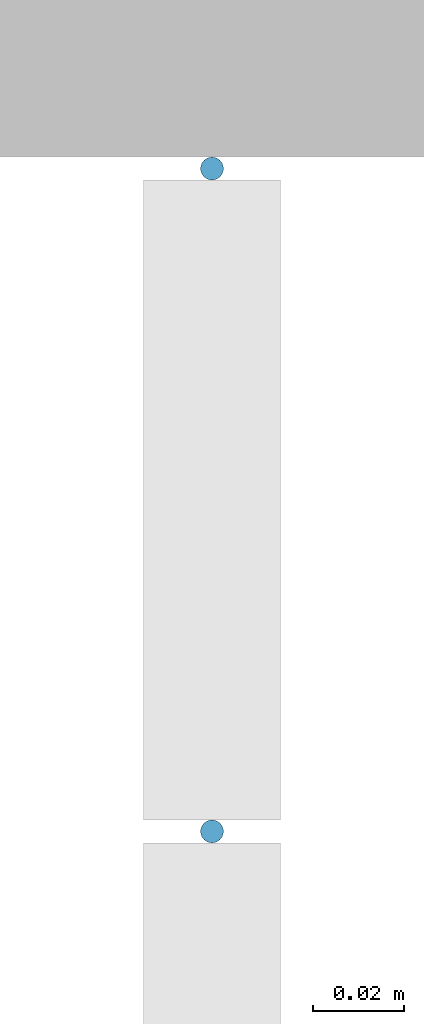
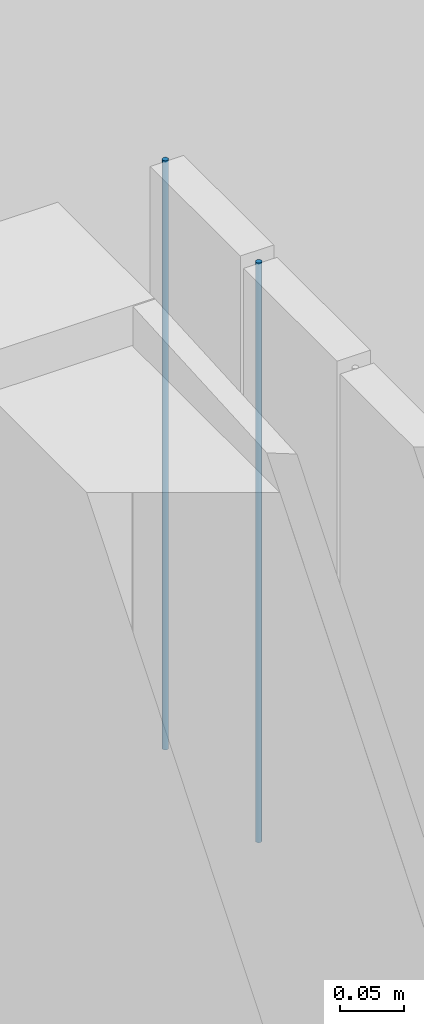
# One storey, part 62 of 81: 2 members, 1 element without a shape of its own.
"""IFC2X3 building model written with IfcOpenShell, lengths in metres."""

from ifc_helpers import new_model, entity, si_unit, converted_unit, derived_unit, direction, frame, frame_2d, origin, place, context, subcontext, project, spatial, circle, extrude, source, transform, mapped, material, type_object, type_shapes, element, aggregate, save


model = new_model("IFC2X3")

# Units and contexts
model_context = context("Model", 3, precision=1e-05, world=origin(), true_north=direction((6.12303176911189e-17, 1.0)))
body_context = subcontext(model_context, "Body", "Model", "MODEL_VIEW")
ifc_project = project(units=[si_unit("LENGTHUNIT", "METRE"), si_unit("AREAUNIT", "SQUARE_METRE"), si_unit("VOLUMEUNIT", "CUBIC_METRE"), converted_unit("PLANEANGLEUNIT", "DEGREE", entity("IfcRatioMeasure", 0.0174532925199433), si_unit("PLANEANGLEUNIT", "RADIAN"), dimensions=[0, 0, 0, 0, 0, 0, 0]), si_unit("MASSUNIT", "GRAM", prefix="KILO"), derived_unit("MASSDENSITYUNIT", [(si_unit("MASSUNIT", "GRAM", prefix="KILO"), 1), (si_unit("LENGTHUNIT", "METRE"), -3)]), derived_unit("MOMENTOFINERTIAUNIT", [(si_unit("LENGTHUNIT", "METRE"), 4)]), si_unit("TIMEUNIT", "SECOND"), si_unit("FREQUENCYUNIT", "HERTZ"), si_unit("THERMODYNAMICTEMPERATUREUNIT", "DEGREE_CELSIUS"), derived_unit("THERMALTRANSMITTANCEUNIT", [(si_unit("MASSUNIT", "GRAM", prefix="KILO"), 1), (si_unit("THERMODYNAMICTEMPERATUREUNIT", "KELVIN"), -1), (si_unit("TIMEUNIT", "SECOND"), -3)]), derived_unit("VOLUMETRICFLOWRATEUNIT", [(si_unit("LENGTHUNIT", "METRE"), 3), (si_unit("TIMEUNIT", "SECOND"), -1)]), si_unit("ELECTRICCURRENTUNIT", "AMPERE"), si_unit("ELECTRICVOLTAGEUNIT", "VOLT"), si_unit("POWERUNIT", "WATT"), si_unit("FORCEUNIT", "NEWTON", prefix="KILO"), si_unit("ILLUMINANCEUNIT", "LUX"), si_unit("LUMINOUSFLUXUNIT", "LUMEN"), si_unit("LUMINOUSINTENSITYUNIT", "CANDELA"), derived_unit("USERDEFINED", [(si_unit("MASSUNIT", "GRAM", prefix="KILO"), -1), (si_unit("LENGTHUNIT", "METRE"), -2), (si_unit("TIMEUNIT", "SECOND"), 3), (si_unit("LUMINOUSFLUXUNIT", "LUMEN"), 1)]), derived_unit("LINEARVELOCITYUNIT", [(si_unit("LENGTHUNIT", "METRE"), 1), (si_unit("TIMEUNIT", "SECOND"), -1)]), si_unit("PRESSUREUNIT", "PASCAL"), derived_unit("USERDEFINED", [(si_unit("LENGTHUNIT", "METRE"), -2), (si_unit("MASSUNIT", "GRAM", prefix="KILO"), 1), (si_unit("TIMEUNIT", "SECOND"), -2)]), derived_unit("LINEARFORCEUNIT", [(si_unit("MASSUNIT", "GRAM", prefix="KILO"), 1), (si_unit("LENGTHUNIT", "METRE"), 1), (si_unit("TIMEUNIT", "SECOND"), -2), (si_unit("LENGTHUNIT", "METRE"), -1)]), derived_unit("PLANARFORCEUNIT", [(si_unit("MASSUNIT", "GRAM", prefix="KILO"), 1), (si_unit("LENGTHUNIT", "METRE"), 1), (si_unit("TIMEUNIT", "SECOND"), -2), (si_unit("LENGTHUNIT", "METRE"), -2)])], contexts=[model_context])

# Site, building, storey
site_placement = place(None, origin())
site = spatial("IfcSite", under=ifc_project, at=site_placement, Name="Surface", CompositionType="ELEMENT")
building_placement = place(site_placement, origin())
building = spatial("IfcBuilding", under=site, at=building_placement, CompositionType="ELEMENT")
storey_placement = place(building_placement, origin())
storey = spatial("IfcBuildingStorey", under=building, at=storey_placement, Name="01 RDC", CompositionType="ELEMENT", Elevation=-1.94916083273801e-14)

# Curtain wall, members
curtain_wall_type = type_object("IfcCurtainWallType", Name="Mur-rideau:1m x 2m", PredefinedType="NOTDEFINED")
curtain_wall_placement = place(storey_placement, origin())
curtain_wall = element("IfcCurtainWall", 1, at=curtain_wall_placement, inside=storey, type_object=curtain_wall_type, Name="Mur-rideau:1m x 2m", ObjectType="Mur-rideau:1m x 2m")
ifc_material = material(Name="Aluminium - Vert")
member_type_1 = type_object("IfcMemberType", Name="Meneau circulaire:R-30 mm", PredefinedType="MULLION", material=ifc_material)
shared_shape_1 = source(origin(), body_context, "Body", "SweptSolid", [
    extrude(circle(Radius=0.0025, at=frame_2d((-1.17965647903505e-32, 3.7744895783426e-18), x_axis=(1.0, 0.0))), frame((-0.0025, 0.0, -0.558477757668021)), (0.0, 0.0, 1.0), 0.558477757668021),
])
type_shapes(member_type_1, [shared_shape_1])
member_1_placement = place(storey_placement, frame((8.02156158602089, -3.69596095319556, 2.55847775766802), z_axis=(0.0, 0.0, 1.0), x_axis=(0.0, 1.0, 0.0)))
member_1 = element("IfcMember", 2, at=member_1_placement, type_object=member_type_1, material=ifc_material, Name="Meneau circulaire:R-30 mm", ObjectType="Meneau circulaire:R-30 mm", context=body_context, shape_type="MappedRepresentation", body=[
    mapped(shared_shape_1, transform((0.0, 0.0, 0.0), scale=1.0)),
])
member_type_2 = type_object("IfcMemberType", Name="Meneau circulaire:R-30 mm", PredefinedType="MULLION", material=ifc_material)
shared_shape_2 = source(origin(), body_context, "Body", "SweptSolid", [
    extrude(circle(Radius=0.0025, at=frame_2d((-1.30499213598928e-32, 4.03886143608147e-18), x_axis=(1.0, 0.0))), frame((0.0, 0.0, -0.549456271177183), z_axis=(0.0, 0.0, 1.0), x_axis=(-1.0, 0.0, 0.0)), (0.0, 0.0, 1.0), 0.549456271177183),
])
type_shapes(member_type_2, [shared_shape_2])
member_2_placement = place(storey_placement, frame((8.02156158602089, -3.84346095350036, 2.0), z_axis=(0.0, 0.0, -1.0), x_axis=(0.0, -1.0, 0.0)))
member_2 = element("IfcMember", 3, at=member_2_placement, type_object=member_type_2, material=ifc_material, Name="Meneau circulaire:R-30 mm", ObjectType="Meneau circulaire:R-30 mm", context=body_context, shape_type="MappedRepresentation", body=[
    mapped(shared_shape_2, transform((0.0, 0.0, 0.0), scale=1.0)),
])
aggregate(curtain_wall, [member_1, member_2])

save(model, "model.ifc")
